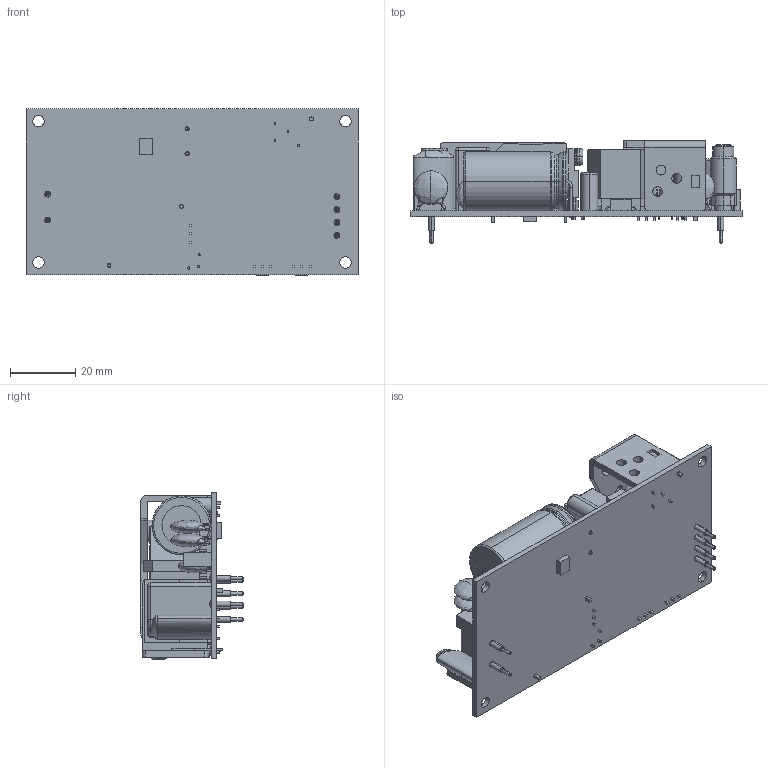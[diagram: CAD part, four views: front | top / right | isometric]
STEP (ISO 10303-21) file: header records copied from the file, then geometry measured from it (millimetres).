
FILE_DESCRIPTION (( 'STEP AP203' ), '1' );
FILE_NAME ('STA1010039(ZPSA40 SPEC).STEP', '2010-10-22T00:22:50', ( 'SuperXP' ), ( 'mychat' ), 'SwSTEP 2.0', 'SolidWorks 2008', '' );
FILE_SCHEMA (( 'CONFIG_CONTROL_DESIGN' ));
Length unit declared in the file: millimetre
Products named in the file (10): GP 0733變壓器; 電晶體10mm-7mm腳; M3螺絲和華司; STA1010039(ZPSA40 SPEC); ZPSA40 PCBªO_¹w³]; 18.1mm電容-31.5mm; GPFOTC-變壓器; VR; ZPS60 HS1散熱片(M-B052-00-J)G6610640407_銅片; ZPS60 HS2 散熱片(M-B053-00-J)G6610650407
Assembly tree (13 placements, depth 2):
  STA1010039(ZPSA40 SPEC)
    GP 0733變壓器
    M3螺絲和華司  x3
    ZPSA40 PCBªO_¹w³]
    18.1mm電容-31.5mm
    VR
    電晶體10mm-7mm腳  x3
    ZPS60 HS1散熱片(M-B052-00-J)G6610640407_銅片
    ZPS60 HS2 散熱片(M-B053-00-J)G6610650407
    GPFOTC-變壓器
Bounding box: 101.6 x 31.3 x 50.92 mm (x, y, z)
Volume: 48690.7 mm3; surface area: 34747.5 mm2
Topology: 13 solids, 13 shells, 1658 faces, 4408 edges, 2842 vertices
Faces by surface type: plane 811, cylinder 584, torus 134, bspline 74, cone 38, sphere 17
Entity records: 55425 total; most frequent: CARTESIAN_POINT 18588, ORIENTED_EDGE 7518, DIRECTION 7498, EDGE_CURVE 3759, AXIS2_PLACEMENT_3D 2627, VERTEX_POINT 2434, VECTOR 2244, LINE 2244
